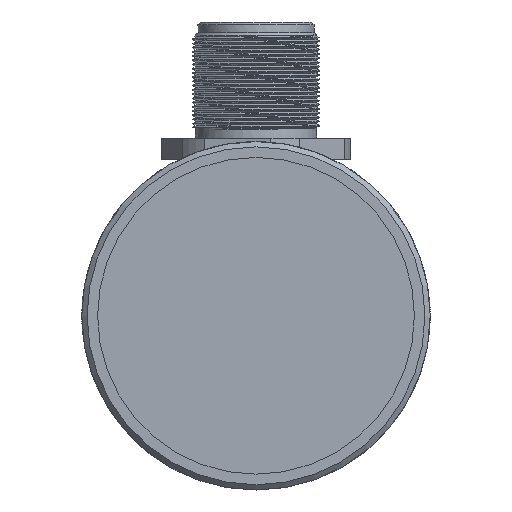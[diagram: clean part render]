
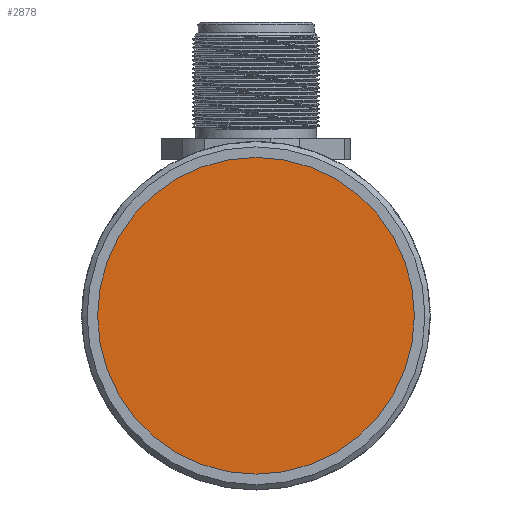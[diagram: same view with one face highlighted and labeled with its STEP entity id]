
A CAD part, left-side view. The second image highlights one B-rep face of the part: STEP entity #2878.
In plain terms, the highlighted planar face has unit normal (-1, 0, 0).
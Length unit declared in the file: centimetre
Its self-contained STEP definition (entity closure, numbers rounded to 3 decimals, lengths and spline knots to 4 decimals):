
#694=PLANE('',#3094);
#773=CIRCLE('',#3092,1.5);
#955=VERTEX_POINT('',#4490);
#1330=EDGE_CURVE('',#955,#955,#773,.T.);
#1821=ORIENTED_EDGE('',*,*,#1330,.T.);
#2412=EDGE_LOOP('',(#1821));
#2652=FACE_BOUND('',#2412,.T.);
#2878=ADVANCED_FACE('',(#2652),#694,.T.);
#3092=AXIS2_PLACEMENT_3D('',#4489,#3444,#3445);
#3094=AXIS2_PLACEMENT_3D('',#4493,#3448,$);
#3444=DIRECTION('',(-1.,0.,0.));
#3445=DIRECTION('',(0.,0.,1.5));
#3448=DIRECTION('',(-1.,0.,0.));
#4489=CARTESIAN_POINT('',(0.1,0.,0.));
#4490=CARTESIAN_POINT('',(0.1,0.,1.5));
#4493=CARTESIAN_POINT('',(0.1,0.,0.));
